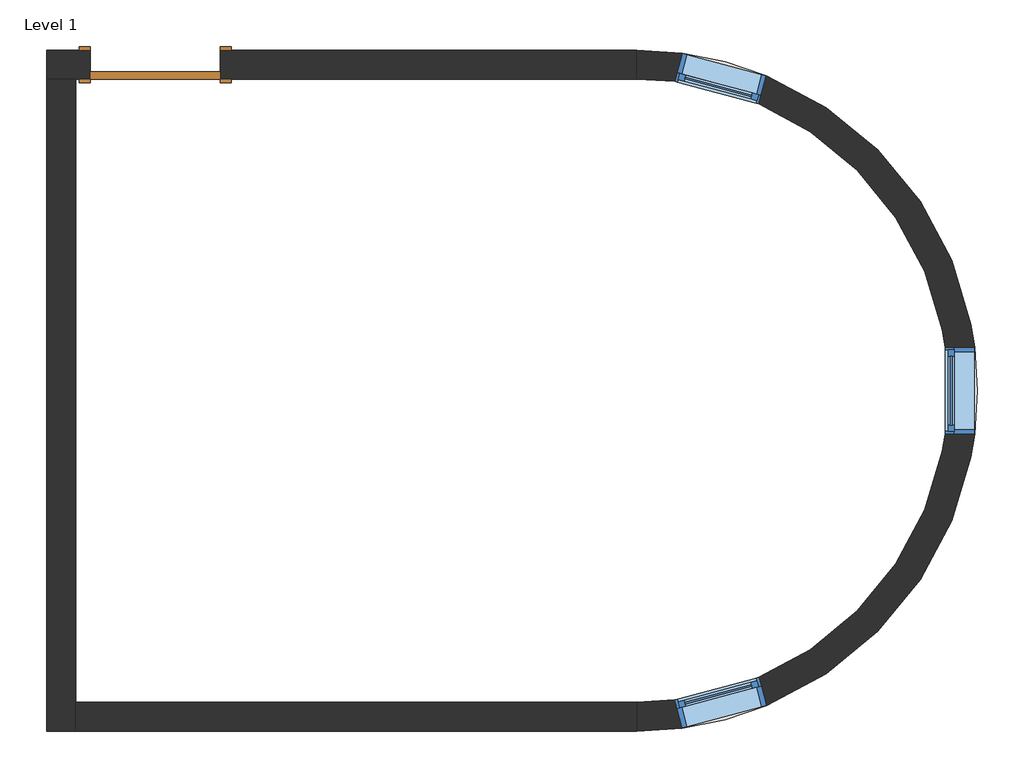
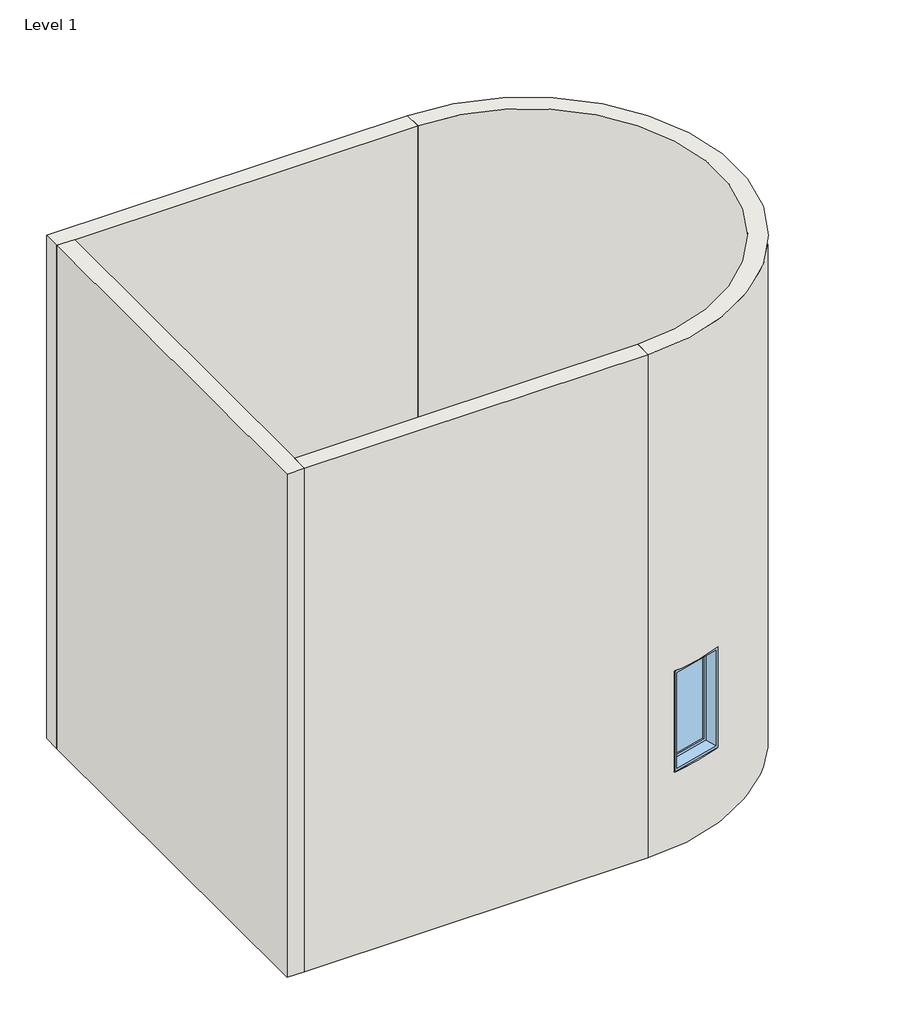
# One storey: 4 walls, 3 windows, 1 door.
"""IFC4 building model written with IfcOpenShell, lengths in millimetres."""

from ifc_helpers import new_model, si_unit, frame, origin, origin_with_axes, place, context, project, spatial, polyline, circle_curve, outline, extrude, faceted_brep, transform, mapped, element, save
from ifc_brep_helpers import plane_surface, cylinder_surface, revolved_surface, advanced_brep
from components import door_54dd4da4, window_80bd9af0

model = new_model("IFC4")

# Units and contexts
model_context = context("Model", 3, world=origin())
ifc_project = project(units=[si_unit("LENGTHUNIT", "METRE", prefix="MILLI")], contexts=[model_context])

# Site, building, storey
site = spatial("IfcSite", under=ifc_project)
building = spatial("IfcBuilding", under=site)
storey = spatial("IfcBuildingStorey", under=building, Name="Level 1", Elevation=0.0)

# Door
placement = place(None, origin())
door_shape = door_54dd4da4(model_context)
element("IfcDoor", 1, ObjectType="Single-Flush : 36\" x 84\"", at=placement, inside=storey, context=model_context, shape_type="MappedRepresentation", body=[
    mapped(door_shape, transform((1966.693003, 1768.4388617, 0.0), x_axis=(-1.0, 0.0, 0.0), y_axis=(0.0, -1.0, 0.0), z_axis=(0.0, 0.0, 1.0))),
])

# Walls
element("IfcWall", 2, ObjectType="Generic - 8\"", at=placement, inside=storey, context=model_context, shape_type="Brep", body=[
    faceted_brep([(1204.693003, 1666.8388617, 0.0), (1407.893003, 1666.8388617, 0.0), (1509.493003, 1666.8388617, 0.0), (1509.493003, 1666.8388617, 2133.6), (2423.893003, 1666.8388617, 2133.6), (2423.893003, 1666.8388617, 0.0), (5344.893003, 1666.8388617, 0.0), (5344.893003, 1666.8388617, 6096.0), (1407.893003, 1666.8388617, 6096.0), (1204.693003, 1666.8388617, 6096.0), (1509.493003, 1870.0388617, 2133.6), (1509.493003, 1870.0388617, 0.0), (1204.693003, 1870.0388617, 0.0), (1204.693003, 1870.0388617, 6096.0), (5344.893003, 1870.0388617, 6096.0), (5344.893003, 1870.0388617, 0.0), (2423.893003, 1870.0388617, 0.0), (2423.893003, 1870.0388617, 2133.6)], [[[0, 1, 2, 3, 4, 5, 6, 7, 8, 9]], [[10, 11, 12, 13, 14, 15, 16, 17]], [[12, 11, 2, 1, 0]], [[16, 15, 6, 5]], [[7, 6, 15, 14]], [[9, 8, 7, 14, 13]], [[0, 9, 13, 12]], [[3, 2, 11, 10]], [[4, 3, 10, 17]], [[5, 4, 17, 16]]]),
])
element("IfcWall", 3, ObjectType="Generic - 8\"", at=placement, inside=storey, context=model_context, shape_type="Brep", body=[
    faceted_brep([(1407.893003, -2905.1611383, 0.0), (1407.893003, -2701.9611383, 0.0), (1407.893003, 1666.8388617, 0.0), (1407.893003, 1666.8388617, 6096.0), (1407.893003, -2701.9611383, 6096.0), (1407.893003, -2905.1611383, 6096.0), (1204.693003, -2905.1611383, 0.0), (1204.693003, -2905.1611383, 6096.0), (1204.693003, 1666.8388617, 6096.0), (1204.693003, 1666.8388617, 0.0)], [[[0, 1, 2, 3, 4, 5]], [[6, 7, 8, 9]], [[2, 1, 0, 6, 9]], [[5, 4, 3, 8, 7]], [[0, 5, 7, 6]], [[3, 2, 9, 8]]]),
])
element("IfcWall", 4, ObjectType="Generic - 8\"", at=placement, inside=storey, context=model_context, shape_type="SweptSolid", body=[
    extrude(outline(polyline([(5344.893003, -2905.1611383), (1407.893003, -2905.1611383), (1407.893003, -2701.9611383), (5344.893003, -2701.9611383), (5344.893003, -2905.1611383)])), origin_with_axes(), (0.0, 0.0, 1.0), 6096.0),
])
element("IfcWall", 5, ObjectType="Generic - 8\"", at=placement, inside=storey, context=model_context, shape_type="AdvancedBrep", body=[
    advanced_brep(
    [(5344.893003, 1666.8388617, 6096.0), (5344.893003, -2701.9611383, 6096.0), (5344.893003, -2905.1611383, 6096.0), (5344.893003, 1870.0388617, 6096.0), (5344.893003, -2701.9611383, 0.0), (5344.893003, 1666.8388617, 0.0), (5344.893003, 1870.0388617, 0.0), (5344.893003, -2905.1611383, 0.0), (5610.3122623, 1650.6537903, 914.4), (5610.3122623, 1650.6537903, 2133.6), (6199.140646, 1492.8777005, 2133.6), (6199.140646, 1492.8777005, 914.4), (6199.140646, -2527.999977, 914.4), (6199.140646, -2527.999977, 2133.6), (5610.3122623, -2685.7760669, 2133.6), (5610.3122623, -2685.7760669, 914.4), (7507.9233588, -212.7611383, 2133.6), (7507.9233588, -822.3611383, 2133.6), (7507.9233588, -822.3611383, 914.4), (7507.9233588, -212.7611383, 914.4), (5663.3790717, 1848.7018192, 2133.6), (5663.3790717, 1848.7018192, 914.4), (6252.2074554, 1690.9257293, 914.4), (6252.2074554, 1690.9257293, 2133.6), (6252.2074554, -2726.0480059, 2133.6), (6252.2074554, -2726.0480059, 914.4), (5663.3790717, -2883.8240958, 914.4), (5663.3790717, -2883.8240958, 2133.6), (7712.9577656, -212.7611383, 2133.6), (7712.9577656, -212.7611383, 914.4), (7712.9577656, -822.3611383, 914.4), (7712.9577656, -822.3611383, 2133.6)],
    [
        (0, 1, circle_curve(frame((5344.893003, -517.5611383, 6096.0), z_axis=(0.0, 0.0, -1.0), x_axis=(1.0, 0.0, 0.0)), 2184.4)),
        (1, 2),
        (2, 3, circle_curve(frame((5344.893003, -517.5611383, 6096.0), z_axis=(0.0, 0.0, 1.0), x_axis=(1.0, 0.0, 0.0)), 2387.6)),
        (3, 0),
        (4, 5, circle_curve(frame((5344.893003, -517.5611383, 0.0), z_axis=(0.0, 0.0, 1.0), x_axis=(1.0, 0.0, 0.0)), 2184.4)),
        (5, 6),
        (6, 7, circle_curve(frame((5344.893003, -517.5611383, 0.0), z_axis=(0.0, 0.0, -1.0), x_axis=(1.0, 0.0, 0.0)), 2387.6)),
        (7, 4),
        (0, 5),
        (4, 1),
        (8, 9),
        (9, 10, circle_curve(frame((5344.893003, -517.5611383, 2133.6), z_axis=(0.0, 0.0, -1.0), x_axis=(1.0, 0.0, 0.0)), 2184.4)),
        (10, 11),
        (11, 8, circle_curve(frame((5344.893003, -517.5611383, 914.4), z_axis=(0.0, 0.0, 1.0), x_axis=(1.0, 0.0, 0.0)), 2184.4)),
        (12, 13),
        (13, 14, circle_curve(frame((5344.893003, -517.5611383, 2133.6), z_axis=(0.0, 0.0, -1.0), x_axis=(1.0, 0.0, 0.0)), 2184.4)),
        (14, 15),
        (15, 12, circle_curve(frame((5344.893003, -517.5611383, 914.4), z_axis=(0.0, 0.0, 1.0), x_axis=(1.0, 0.0, 0.0)), 2184.4)),
        (16, 17, circle_curve(frame((5344.893003, -517.5611383, 2133.6), z_axis=(0.0, 0.0, -1.0), x_axis=(1.0, 0.0, 0.0)), 2184.4)),
        (17, 18),
        (18, 19, circle_curve(frame((5344.893003, -517.5611383, 914.4), z_axis=(0.0, 0.0, 1.0), x_axis=(1.0, 0.0, 0.0)), 2184.4)),
        (19, 16),
        (7, 2),
        (6, 3),
        (20, 21),
        (21, 22, circle_curve(frame((5344.893003, -517.5611383, 914.4), z_axis=(0.0, 0.0, -1.0), x_axis=(1.0, 0.0, 0.0)), 2387.6)),
        (22, 23),
        (23, 20, circle_curve(frame((5344.893003, -517.5611383, 2133.6), z_axis=(0.0, 0.0, 1.0), x_axis=(1.0, 0.0, 0.0)), 2387.6)),
        (24, 25),
        (25, 26, circle_curve(frame((5344.893003, -517.5611383, 914.4), z_axis=(0.0, 0.0, -1.0), x_axis=(1.0, 0.0, 0.0)), 2387.6)),
        (26, 27),
        (27, 24, circle_curve(frame((5344.893003, -517.5611383, 2133.6), z_axis=(0.0, 0.0, 1.0), x_axis=(1.0, 0.0, 0.0)), 2387.6)),
        (28, 29),
        (29, 30, circle_curve(frame((5344.893003, -517.5611383, 914.4), z_axis=(0.0, 0.0, -1.0), x_axis=(1.0, 0.0, 0.0)), 2387.6)),
        (30, 31),
        (31, 28, circle_curve(frame((5344.893003, -517.5611383, 2133.6), z_axis=(0.0, 0.0, 1.0), x_axis=(1.0, 0.0, 0.0)), 2387.6)),
        (20, 9),
        (8, 21),
        (11, 22),
        (10, 23),
        (24, 13),
        (12, 25),
        (15, 26),
        (14, 27),
        (28, 16),
        (19, 29),
        (18, 30),
        (17, 31),
    ],
    [
        plane_surface(frame((7529.293003, -517.5611383, 6096.0), z_axis=(0.0, 0.0, 1.0), x_axis=(0.0, -1.0, 0.0))),
        plane_surface(frame((7529.293003, -517.5611383, 0.0), z_axis=(0.0, 0.0, -1.0), x_axis=(0.0, 1.0, 0.0))),
        revolved_surface(polyline([(7529.293003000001, -517.5611383, 0.0), (7529.293003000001, -517.5611383, 6096.0)]), (5344.893003, -517.5611383, 0.0), (0.0, 0.0, -1.0)),
        plane_surface(frame((5344.893003, -2701.9611383, 6096.0), z_axis=(-1.0, 0.0, 0.0), x_axis=(0.0, 0.0, -1.0))),
        cylinder_surface(frame((5344.893003, -517.5611383, 0.0), z_axis=(0.0, 0.0, 1.0), x_axis=(1.0, 0.0, 0.0)), 2387.6),
        plane_surface(frame((5344.893003, 1870.0388617, 6096.0), z_axis=(-1.0, 0.0, 0.0), x_axis=(0.0, 0.0, -1.0))),
        plane_surface(frame((5663.3790717, 1848.7018192, 2133.6), z_axis=(0.9659258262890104, -0.2588190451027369, 0.0), x_axis=(-0.2588190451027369, -0.9659258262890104, 0.0))),
        plane_surface(frame((5663.3790717, 1848.7018192, 914.4), z_axis=(0.0, 0.0, 1.0), x_axis=(-0.2588190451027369, -0.9659258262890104, 0.0))),
        plane_surface(frame((6252.2074554, 1690.9257293, 914.4), z_axis=(-0.9659258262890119, 0.258819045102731, 0.0), x_axis=(-0.258819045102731, -0.9659258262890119, 0.0))),
        plane_surface(frame((6252.2074554, 1690.9257293, 2133.6), z_axis=(0.0, 0.0, -1.0), x_axis=(-0.258819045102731, -0.9659258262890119, 0.0))),
        plane_surface(frame((5857.2924513, -1252.2051457, 2133.6), z_axis=(-0.9659258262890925, -0.2588190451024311, 0.0), x_axis=(0.2588190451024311, -0.9659258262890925, 0.0))),
        plane_surface(frame((5857.2924513, -1252.2051457, 914.4), z_axis=(0.0, 0.0, 1.0000000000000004), x_axis=(0.2588190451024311, -0.9659258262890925, 0.0))),
        plane_surface(frame((5268.4640676, -1409.9812356, 914.4), z_axis=(0.9659258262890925, 0.2588190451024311, 0.0), x_axis=(0.2588190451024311, -0.9659258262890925, 0.0))),
        plane_surface(frame((5268.4640676, -1409.9812356, 2133.6), z_axis=(0.0, 0.0, -1.0000000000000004), x_axis=(0.2588190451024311, -0.9659258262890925, 0.0))),
        plane_surface(frame((7712.9577656, -212.7611383, 2133.6), z_axis=(0.0, -1.0, 0.0), x_axis=(-1.0, 0.0, 0.0))),
        plane_surface(frame((7712.9577656, -212.7611383, 914.4), z_axis=(0.0, 0.0, 1.0), x_axis=(-1.0, 0.0, 0.0))),
        plane_surface(frame((7712.9577656, -822.3611383, 914.4), z_axis=(0.0, 1.0, 0.0), x_axis=(-1.0, 0.0, 0.0))),
        plane_surface(frame((7712.9577656, -822.3611383, 2133.6), z_axis=(0.0, 0.0, -1.0), x_axis=(-1.0, 0.0, 0.0))),
    ],
    [
        (0, [[1, 2, 3, 4]]),
        (1, [[5, 6, 7, 8]]),
        (2, [[-1, 9, -5, 10], [11, 12, 13, 14], [15, 16, 17, 18], [19, 20, 21, 22]]),
        (3, [[-2, -10, -8, 23]]),
        (4, [[-3, -23, -7, 24], [25, 26, 27, 28], [29, 30, 31, 32], [33, 34, 35, 36]]),
        (5, [[-4, -24, -6, -9]]),
        (6, [[-25, 37, -11, 38]]),
        (7, [[-26, -38, -14, 39]]),
        (8, [[-27, -39, -13, 40]]),
        (9, [[-28, -40, -12, -37]]),
        (10, [[41, -15, 42, -29]]),
        (11, [[-42, -18, 43, -30]]),
        (12, [[-43, -17, 44, -31]]),
        (13, [[-41, -32, -44, -16]]),
        (14, [[-33, 45, -22, 46]]),
        (15, [[-34, -46, -21, 47]]),
        (16, [[-35, -47, -20, 48]]),
        (17, [[-36, -48, -19, -45]]),
    ],
),
])

# Windows
window_shape = window_80bd9af0(model_context)
element("IfcWindow", 6, ObjectType="Fixed : 24\" x 48\"", at=placement, inside=storey, context=model_context, shape_type="MappedRepresentation", body=[
    mapped(window_shape, transform((5894.2206952, 1679.764815, 0.0), x_axis=(-0.9659258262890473, 0.25881904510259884, 0.0), y_axis=(-0.25881904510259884, -0.9659258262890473, 0.0), z_axis=(0.0, 0.0, 1.0))),
])
element("IfcWindow", 7, ObjectType="Fixed : 24\" x 48\"", at=placement, inside=storey, context=model_context, shape_type="MappedRepresentation", body=[
    mapped(window_shape, transform((5967.8242432, -2695.1650803, 0.0), x_axis=(0.9659258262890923, 0.2588190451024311, 0.0), y_axis=(-0.2588190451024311, 0.9659258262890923, 0.0), z_axis=(0.0, 0.0, 1.0))),
])
element("IfcWindow", 8, ObjectType="Fixed : 24\" x 48\"", at=placement, inside=storey, context=model_context, shape_type="MappedRepresentation", body=[
    mapped(window_shape, transform((7609.5233588, -479.4611383, 0.0), x_axis=(0.0, 1.0, 0.0), y_axis=(-1.0, 0.0, 0.0), z_axis=(0.0, 0.0, 1.0))),
])

save(model, "model.ifc")
